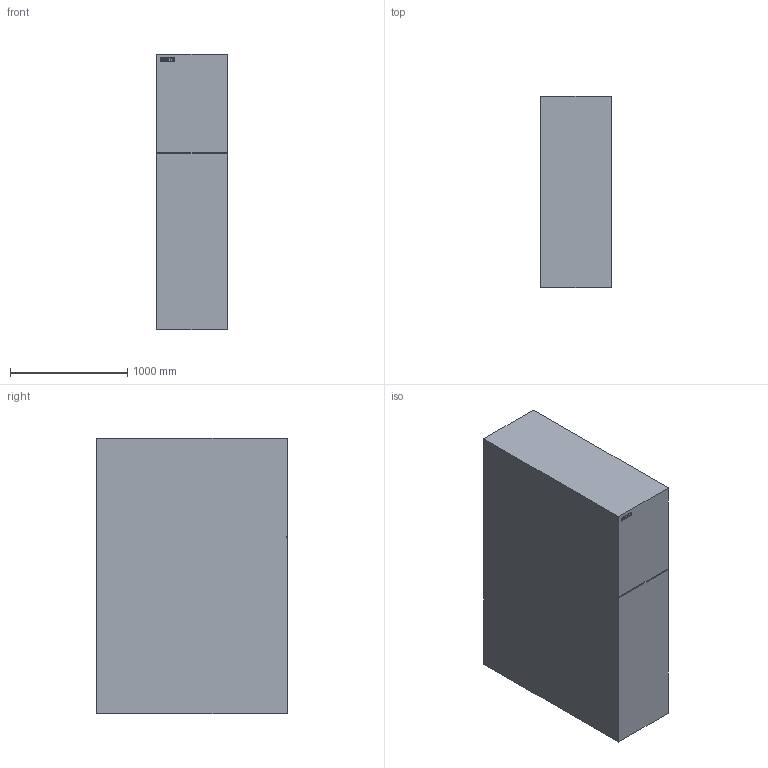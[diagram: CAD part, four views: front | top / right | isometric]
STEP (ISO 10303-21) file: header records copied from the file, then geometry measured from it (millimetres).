
FILE_DESCRIPTION(/* description */ (''),/* implementation_level */ '2;1');
FILE_NAME(/* name */ 'C:\ProgramData\Autodesk\RVT 2016\Libraries\Germany\__Siemens Entwicklung 8DA 8DB\DWG\Siemens_MV_switchgear_gas-insulated_8DA10_40_5kV - Single panel 600mm with cable cutout LV850.stp',/* time_stamp */ '2018-03-14T11:55:42+01:00',/* author */ ('prange'),/* organization */ (''),/* preprocessor_version */ 'ST-DEVELOPER v16.1',/* originating_system */ 'AutoCAD Mechanical',/* authorisation */ '');
FILE_SCHEMA (('AUTOMOTIVE_DESIGN { 1 0 10303 214 3 1 1 }'));
Length unit declared in the file: millimetre
Products named in the file (2): 8DA - Basic - Test-568494-_3D_; Product
Assembly tree (1 placements, depth 2):
  Product
    8DA - Basic - Test-568494-_3D_
Bounding box: 600 x 1626.5 x 2350 mm (x, y, z)
Volume: 2285354250 mm3; surface area: 12461112.8 mm2
Topology: 2 solids, 9 shells, 28 faces, 191 edges, 195 vertices
Faces by surface type: plane 28
Entity records: 1858 total; most frequent: CARTESIAN_POINT 417, DIRECTION 253, ORIENTED_EDGE 219, LINE 191, VECTOR 191, EDGE_CURVE 171, VERTEX_POINT 155, AXIS2_PLACEMENT_3D 31
